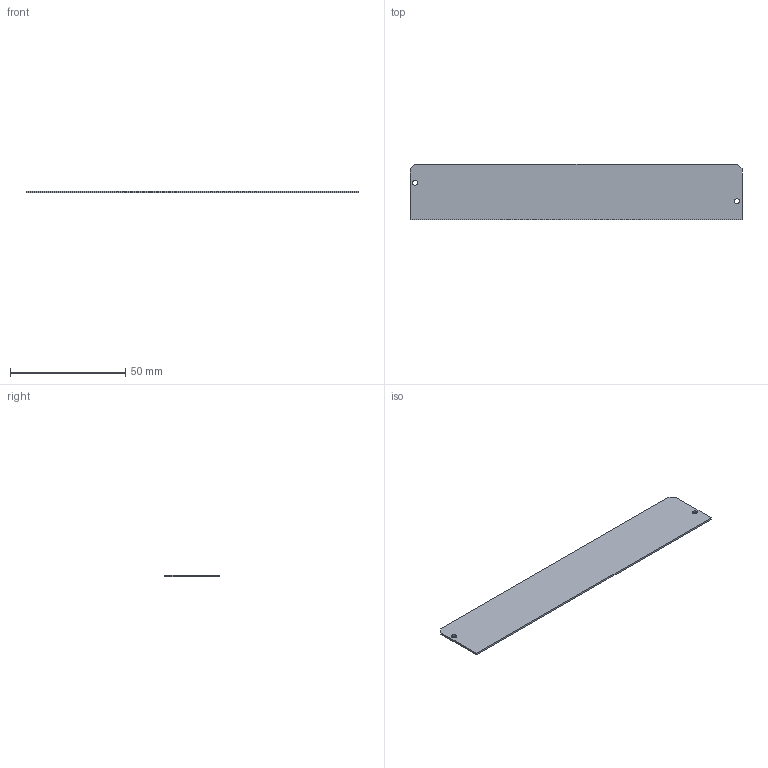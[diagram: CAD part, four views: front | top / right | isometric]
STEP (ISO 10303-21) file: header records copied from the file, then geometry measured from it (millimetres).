
FILE_DESCRIPTION (( 'STEP AP214' ), '1' );
FILE_NAME ('LBS45-00-135-3-POLARIZER-V.STEP', '2021-11-05T06:18:17', ( '' ), ( '' ), 'SwSTEP 2.0', 'SolidWorks 2021', '' );
FILE_SCHEMA (( 'AUTOMOTIVE_DESIGN' ));
Length unit declared in the file: millimetre
Products named in the file (1): LBS45-00-135-3-POLARIZER-V
Bounding box: 144 x 24 x 0.8 mm (x, y, z)
Volume: 2755.5 mm3; surface area: 7166.8 mm2
Topology: 1 solids, 1 shells, 12 faces, 30 edges, 20 vertices
Faces by surface type: plane 8, cylinder 4
Entity records: 404 total; most frequent: DIRECTION 64, CARTESIAN_POINT 63, ORIENTED_EDGE 60, EDGE_CURVE 30, LINE 22, VECTOR 22, AXIS2_PLACEMENT_3D 21, VERTEX_POINT 20
